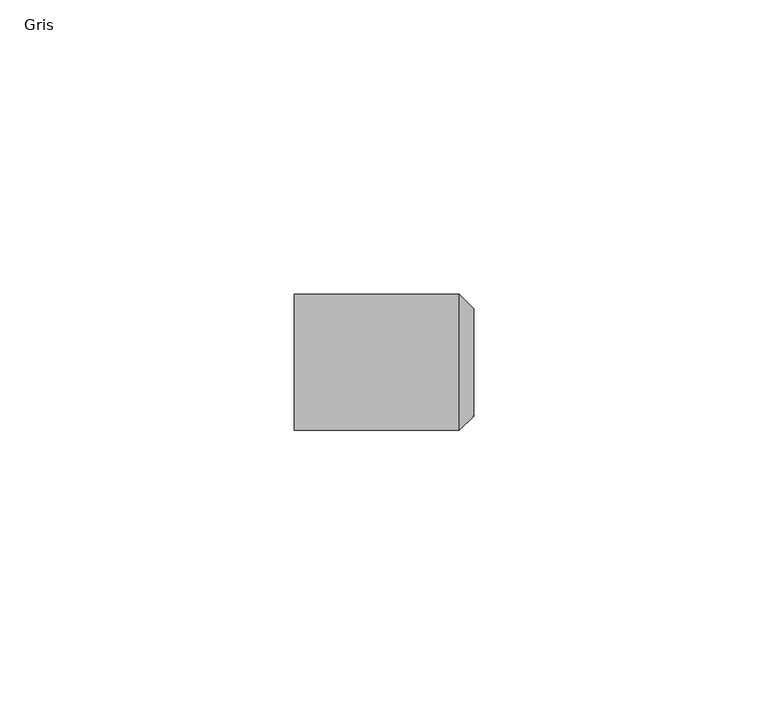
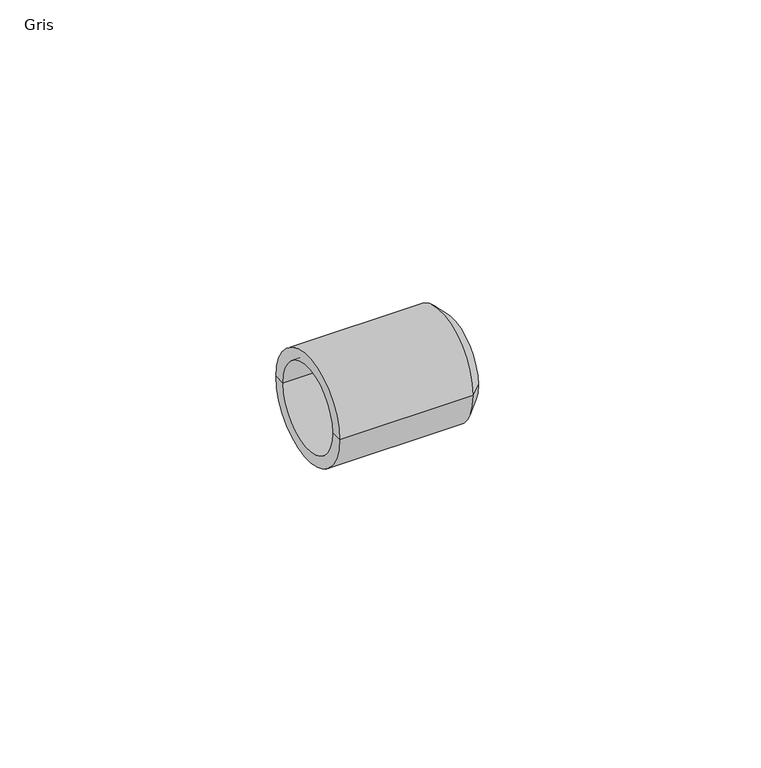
"""IFC4 building model written with IfcOpenShell, lengths in millimetres: cable carrier fitting geometry, AmancoWavin_ConduitFittings_ZnoUsarCampana : Gris."""

import ifcopenshell
import ifcopenshell.guid

model = None  # the IFC model being written
_history = None  # IfcOwnerHistory: only IFC2X3 demands one
_inside = {}  # id of a spatial element -> (the spatial element, [elements in it])
_under = {}  # id of a project, library or spatial element -> (it, [spatial elements below it])
_declared = {}  # id of a project -> (the project, [libraries it declares])
_typed = {}  # id of a type object -> (the type object, [elements of that type])
_made_of = {}  # id of a material, layer set ... -> (it, [elements and type objects made of it])


def new_model(schema):
    """Start an empty IFC model of exactly this schema.

    Asked for "IFC4X3", IfcOpenShell would pick the latest addendum, in which some entities
    have other attributes; the version numbers below select the first issue.
    IFC2X3 requires an IfcOwnerHistory on every rooted entity: one is made here for all.
    """
    global model, _history
    if schema == "IFC4X3":
        model = ifcopenshell.file(schema_version=(4, 3, 0, 0))
    else:
        model = ifcopenshell.file(schema=schema)
    _inside.clear()
    _under.clear()
    _declared.clear()
    _typed.clear()
    _made_of.clear()
    _history = None
    if model.schema == "IFC2X3":
        org = make("IfcOrganization", Name="unknown")
        user = make(
            "IfcPersonAndOrganization",
            ThePerson=make("IfcPerson", FamilyName="unknown"),
            TheOrganization=org,
        )
        app = make(
            "IfcApplication",
            ApplicationDeveloper=org,
            Version="unknown",
            ApplicationFullName="unknown",
            ApplicationIdentifier="unknown",
        )
        _history = make(
            "IfcOwnerHistory",
            OwningUser=user,
            OwningApplication=app,
            ChangeAction="ADDED",
            CreationDate=0,
        )
    return model


def make(cls, **values):
    """One entity of the class cls with the attributes given. An attribute that is None is left unset."""
    return model.create_entity(
        cls, **{name: value for name, value in values.items() if value is not None}
    )


def rooted(cls, **values):
    """An entity with a GlobalId (a new one), such as an element, a storey or a relation."""
    return make(cls, GlobalId=ifcopenshell.guid.new(), OwnerHistory=_history, **values)


def si_unit(unit_type, name, prefix=None):
    """IfcSIUnit, for example si_unit("LENGTHUNIT", "METRE", prefix="MILLI")."""
    return make("IfcSIUnit", UnitType=unit_type, Prefix=prefix, Name=name)


def assignment(units):
    """IfcUnitAssignment: the units of a project."""
    return None if units is None else make("IfcUnitAssignment", Units=units)


def point(xyz):
    """IfcCartesianPoint."""
    return None if xyz is None else make("IfcCartesianPoint", Coordinates=xyz)


def direction(xyz):
    """IfcDirection."""
    return None if xyz is None else make("IfcDirection", DirectionRatios=xyz)


def frame(location, z_axis=None, x_axis=None):
    """IfcAxis2Placement3D, a coordinate frame: its origin and axes. An axis left out is left unset."""
    return make(
        "IfcAxis2Placement3D",
        Location=point(location),
        Axis=direction(z_axis),
        RefDirection=direction(x_axis),
    )


def origin():
    """The frame at (0, 0, 0) with its axes left unset."""
    return frame((0.0, 0.0, 0.0))


def place(relative_to, where):
    """IfcLocalPlacement: puts the frame where relative to a parent placement (None: the world)."""
    return make(
        "IfcLocalPlacement", PlacementRelTo=relative_to, RelativePlacement=where
    )


def context(
    kind, dimensions, precision=None, world=None, true_north=None, identifier=None
):
    """IfcGeometricRepresentationContext, for example the 3D "Model" context."""
    return make(
        "IfcGeometricRepresentationContext",
        ContextIdentifier=identifier,
        ContextType=kind,
        CoordinateSpaceDimension=dimensions,
        Precision=precision,
        WorldCoordinateSystem=world,
        TrueNorth=true_north,
    )


def project(units=None, contexts=None):
    """IfcProject with its units and contexts."""
    return rooted(
        "IfcProject",
        Name="project",
        RepresentationContexts=contexts,
        UnitsInContext=assignment(units),
    )


def spatial(cls, under=None, at=None, **own):
    """A site, building, storey or space (cls), placed at a placement, below another one or the project."""
    s = rooted(cls, ObjectPlacement=at, **own)
    if under is not None:
        _under.setdefault(under.id(), (under, []))[1].append(s)
    return s


def polyline(points):
    """IfcPolyline through the points."""
    return make("IfcPolyline", Points=[point(p) for p in points])


def circle_curve(where, radius):
    """IfcCircle in the frame where."""
    return make("IfcCircle", Position=where, Radius=radius)


def shape(context_of_items, identifier, shape_type, items):
    """IfcShapeRepresentation: the items that make up one representation, for example the "Body"."""
    return make(
        "IfcShapeRepresentation",
        ContextOfItems=context_of_items,
        RepresentationIdentifier=identifier,
        RepresentationType=shape_type,
        Items=items,
    )


def source(mapping_origin, context_of_items, identifier, shape_type, items):
    """IfcRepresentationMap: a shape defined once, which mapped items show again and again."""
    return make(
        "IfcRepresentationMap",
        MappingOrigin=mapping_origin,
        MappedRepresentation=shape(context_of_items, identifier, shape_type, items),
    )


def transform(
    local_origin,
    x_axis=None,
    y_axis=None,
    z_axis=None,
    scale=None,
    scale2=None,
    scale3=None,
    uniform=True,
):
    """IfcCartesianTransformationOperator3D, or its non-uniform kind. x_axis, y_axis, z_axis: its Axis1, 2, 3."""
    if uniform:
        return make(
            "IfcCartesianTransformationOperator3D",
            Axis1=direction(x_axis),
            Axis2=direction(y_axis),
            LocalOrigin=point(local_origin),
            Scale=scale,
            Axis3=direction(z_axis),
        )
    return make(
        "IfcCartesianTransformationOperator3DnonUniform",
        Axis1=direction(x_axis),
        Axis2=direction(y_axis),
        LocalOrigin=point(local_origin),
        Scale=scale,
        Axis3=direction(z_axis),
        Scale2=scale2,
        Scale3=scale3,
    )


def mapped(mapping_source, mapping_target):
    """IfcMappedItem: shows the shape of a source again, moved by a transform."""
    return make(
        "IfcMappedItem", MappingSource=mapping_source, MappingTarget=mapping_target
    )


def made_of(thing, what):
    """Note that an element or type object is made of a material, layer set ...; save() writes the relation."""
    if what is not None:
        _made_of.setdefault(what.id(), (what, []))[1].append(thing)
    return thing


def element(
    cls,
    number,
    at=None,
    inside=None,
    cuts=None,
    type_object=None,
    material=None,
    context=None,
    identifier="Body",
    shape_type=None,
    held_by="IfcProductDefinitionShape",
    body=None,
    shapes=None,
    **own,
):
    """One element of the class cls, such as IfcWall. Its Tag is "e" and its number.

    at: its placement. inside: the storey or other place that contains it. cuts: it is an
    opening in that element (IfcRelVoidsElement). A single representation is given by context,
    identifier, shape_type and body (its items); several are given by shapes. held_by: the class
    of the entity that holds the representations. save() writes the other relations.
    """
    e = rooted(cls, Tag="e%d" % number, ObjectPlacement=at, **own)
    if body is not None:
        shapes = [shape(context, identifier, shape_type, body)]
    if shapes is not None:
        e.Representation = make(held_by, Representations=shapes)
    if inside is not None:
        _inside.setdefault(inside.id(), (inside, []))[1].append(e)
    if cuts is not None:
        rooted(
            "IfcRelVoidsElement", RelatingBuildingElement=cuts, RelatedOpeningElement=e
        )
    if type_object is not None:
        _typed.setdefault(type_object.id(), (type_object, []))[1].append(e)
    return made_of(e, material)


def aggregate(whole, parts):
    """IfcRelAggregates: a whole, such as a stair, and the parts it consists of."""
    return rooted("IfcRelAggregates", RelatingObject=whole, RelatedObjects=parts)


def save(model, path):
    """Write the relations noted so far, then the file.

    IfcRelAggregates (storeys below a building ...), IfcRelContainedInSpatialStructure (elements
    in a storey), IfcRelDefinesByType, IfcRelAssociatesMaterial and IfcRelDeclares: one each for
    every whole, place, type object, material and project.
    """
    for whole, parts in _under.values():
        aggregate(whole, parts)
    for where, things in _inside.values():
        rooted(
            "IfcRelContainedInSpatialStructure",
            RelatedElements=things,
            RelatingStructure=where,
        )
    for kind, things in _typed.values():
        rooted("IfcRelDefinesByType", RelatedObjects=things, RelatingType=kind)
    for what, things in _made_of.values():
        rooted("IfcRelAssociatesMaterial", RelatedObjects=things, RelatingMaterial=what)
    for by, libraries in _declared.values():
        rooted("IfcRelDeclares", RelatingContext=by, RelatedDefinitions=libraries)
    model.write(path)


def plane_surface(at):
    """IfcPlane: the flat surface through the origin of the frame at, square to its z axis."""
    return make("IfcPlane", Position=at)


def cylinder_surface(at, radius):
    """IfcCylindricalSurface: all points at the distance radius from the z axis of the frame at."""
    return make("IfcCylindricalSurface", Position=at, Radius=radius)


def revolved_surface(curve, axis_point, axis_direction):
    """IfcSurfaceOfRevolution: the curve turned about the line through axis_point along axis_direction."""
    return make(
        "IfcSurfaceOfRevolution",
        SweptCurve=make("IfcArbitraryOpenProfileDef", ProfileType="CURVE", Curve=curve),
        AxisPosition=make("IfcAxis1Placement", Location=point(axis_point), Axis=direction(axis_direction)),
    )


def advanced_brep(points, edges, surfaces, faces):
    """IfcAdvancedBrep: a solid bounded by faces that lie on surfaces and meet in shared edges.

    An edge is (start, end): straight between two places in points (the first is 0);
    or (start, end, curve); or (start, end, curve, False) where it runs against its curve.
    A face is (place in surfaces, loops), or (place, loops, False) where it looks against
    its surface's normal. A loop lists edges by number (the first is 1), with a minus sign
    where the edge is run from its end to its start. The first loop is the outer one.
    """
    corners = [point(p) for p in points]
    vertices = [make("IfcVertexPoint", VertexGeometry=c) for c in corners]
    made = []
    for start, end, *more in edges:
        made.append(
            make(
                "IfcEdgeCurve",
                EdgeStart=vertices[start],
                EdgeEnd=vertices[end],
                EdgeGeometry=more[0] if more else make("IfcPolyline", Points=[corners[start], corners[end]]),
                SameSense=more[1] if len(more) > 1 else True,
            )
        )
    hull = []
    for where, loops, *sense in faces:
        bounds = []
        for j, loop in enumerate(loops):
            ring = [make("IfcOrientedEdge", EdgeElement=made[abs(k) - 1], Orientation=k > 0) for k in loop]
            bounds.append(
                make(
                    "IfcFaceOuterBound" if j == 0 else "IfcFaceBound",
                    Bound=make("IfcEdgeLoop", EdgeList=ring),
                    Orientation=True,
                )
            )
        hull.append(make("IfcAdvancedFace", Bounds=bounds, FaceSurface=surfaces[where], SameSense=sense[0] if sense else True))
    return make("IfcAdvancedBrep", Outer=make("IfcClosedShell", CfsFaces=hull))


def gris_4311d6c2(model_context):
    return source(origin(), model_context, "Body", "AdvancedBrep", [
        advanced_brep(
        [(-28.0, -9.13, 0.0), (-28.0, 9.13, 0.0), (-28.0, 11.54, 0.0), (-28.0, -11.54, 0.0), (2.41, -9.13, 0.0), (2.41, 9.13, 0.0), (0.0, -11.54, 0.0), (0.0, 11.54, 0.0)],
        [
            (0, 1, circle_curve(frame((-28.0, 0.0, 0.0), z_axis=(1.0, 0.0, 0.0), x_axis=(0.0, 1.0, 0.0)), 9.13)),
            (1, 2),
            (2, 3, circle_curve(frame((-28.0, 0.0, 0.0), z_axis=(-1.0, 0.0, 0.0), x_axis=(0.0, 1.0, 0.0)), 11.54)),
            (3, 0),
            (1, 0, circle_curve(frame((-28.0, 0.0, 0.0), z_axis=(1.0, 0.0, 0.0), x_axis=(0.0, 1.0, 0.0)), 9.13)),
            (3, 2, circle_curve(frame((-28.0, 0.0, 0.0), z_axis=(-1.0, 0.0, 0.0), x_axis=(0.0, 1.0, 0.0)), 11.54)),
            (4, 5, circle_curve(frame((2.41, 0.0, 0.0), z_axis=(1.0, 0.0, 0.0), x_axis=(0.0, 1.0, 0.0)), 9.13)),
            (5, 1),
            (0, 4),
            (5, 4, circle_curve(frame((2.41, 0.0, 0.0), z_axis=(1.0, 0.0, 0.0), x_axis=(0.0, 1.0, 0.0)), 9.13)),
            (6, 7, circle_curve(frame((0.0, 0.0, 0.0), z_axis=(1.0, 0.0, 0.0), x_axis=(0.0, 1.0, 0.0)), 11.54)),
            (7, 5),
            (4, 6),
            (7, 6, circle_curve(frame((0.0, 0.0, 0.0), z_axis=(1.0, 0.0, 0.0), x_axis=(0.0, 1.0, 0.0)), 11.54)),
            (2, 7),
            (6, 3),
        ],
        [
            plane_surface(frame((-28.0, 0.0, 0.0), z_axis=(-1.0, 0.0, 0.0), x_axis=(0.0, 1.0, 0.0))),
            revolved_surface(polyline([(-28.0, 9.13, 0.0), (2.410000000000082, 9.13, 0.0)]), (1993.9380958, 0.0, 0.0), (-1.0, 0.0, 0.0)),
            revolved_surface(polyline([(2.41, 9.13, 0.0), (0.0, 11.54, 0.0)]), (1993.9380958, 0.0, 0.0), (-1.0, 0.0, 0.0)),
            cylinder_surface(frame((1993.9380958, 0.0, 0.0), z_axis=(-1.0, 0.0, 0.0), x_axis=(0.0, 1.0, 0.0)), 11.54),
        ],
        [
            (0, [[1, 2, 3, 4]]),
            (0, [[5, -4, 6, -2]]),
            (1, [[7, 8, -1, 9]]),
            (1, [[10, -9, -5, -8]]),
            (2, [[11, 12, -7, 13]]),
            (2, [[14, -13, -10, -12]]),
            (3, [[-3, 15, -11, 16]]),
            (3, [[-6, -16, -14, -15]]),
        ],
    ),
    ])


if __name__ == "__main__":
    model = new_model("IFC4")
    model_context = context("Model", 3, world=origin())
    ifc_project = project(units=[si_unit("LENGTHUNIT", "METRE", prefix="MILLI")], contexts=[model_context])
    site = spatial("IfcSite", under=ifc_project)
    building = spatial("IfcBuilding", under=site)
    placement = place(None, origin())
    gris_shape = gris_4311d6c2(model_context)
    element("IfcCableCarrierFitting", 1, ObjectType="AmancoWavin_ConduitFittings_ZnoUsarCampana : Gris", at=placement, inside=building, context=model_context, shape_type="MappedRepresentation", body=[
        mapped(gris_shape, transform((0.0, 0.0, 0.0), x_axis=(1.0, 0.0, 0.0), y_axis=(0.0, 1.0, 0.0), z_axis=(0.0, 0.0, 1.0))),
    ])
    save(model, "model.ifc")
